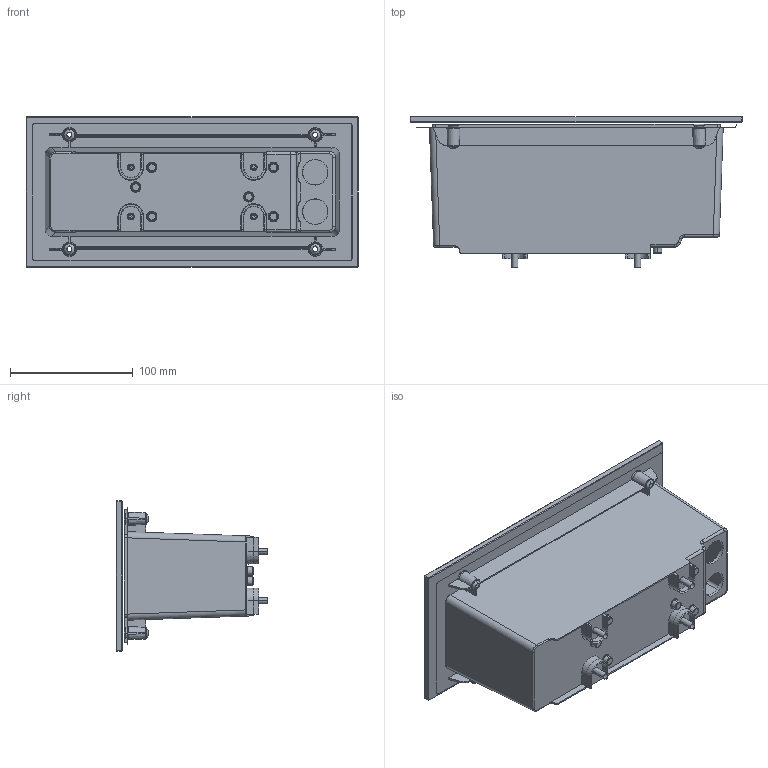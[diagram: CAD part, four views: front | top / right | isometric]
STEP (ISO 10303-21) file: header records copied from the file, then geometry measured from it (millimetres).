
FILE_DESCRIPTION((''),'2;1');
FILE_NAME('RAPPR_DI_DEFAULT_SW0001','2025-07-29T12:12:18',('Piccioli'),(''),'CREO PARAMETRIC BY PTC INC, 2025010','CREO PARAMETRIC BY PTC INC, 2025010','');
FILE_SCHEMA(('CONFIG_CONTROL_DESIGN'));
Length unit declared in the file: millimetre
Products named in the file (1): RAPPR_DI_DEFAULT_SW0001
Bounding box: 270.15 x 123.5 x 122.15 mm (x, y, z)
Surface area: 247689.8 mm2 (no closed solid volume)
Topology: 0 solids, 30 shells, 441 faces, 1518 edges, 1073 vertices
Faces by surface type: plane 192, cone 104, cylinder 67, torus 57, bspline 13, sphere 8
Entity records: 20683 total; most frequent: CARTESIAN_POINT 7962, DIRECTION 2604, ORIENTED_EDGE 2449, EDGE_CURVE 1518, VERTEX_POINT 1073, AXIS2_PLACEMENT_3D 971, VECTOR 662, LINE 662
